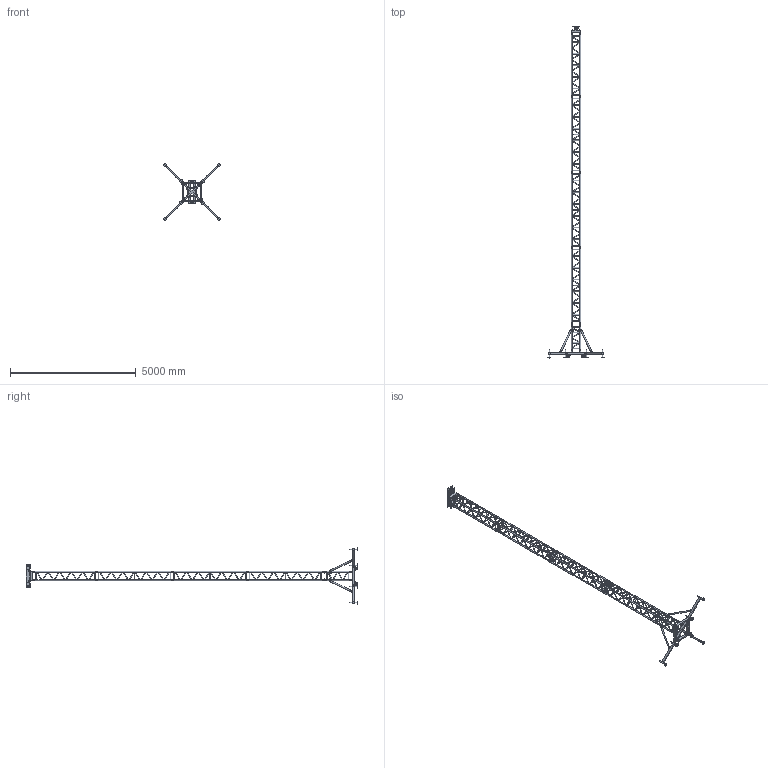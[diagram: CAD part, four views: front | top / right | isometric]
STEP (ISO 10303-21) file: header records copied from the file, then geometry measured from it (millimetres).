
FILE_DESCRIPTION(/* description */ ('ST TOWER HEIGHT=12,5 METER'),/* implementation_level */ '2;1');
FILE_NAME(/* name */ 'C:\Users\bennie\Desktop\ST-TOW-12M.stp',/* time_stamp */ '2019-06-03T10:45:02+02:00',/* author */ ('bboomsema'),/* organization */ (''),/* preprocessor_version */ 'ST-DEVELOPER v17',/* originating_system */ 'Autodesk Inventor 2018',/* authorisation */ '');
FILE_SCHEMA (('AUTOMOTIVE_DESIGN { 1 0 10303 214 3 1 1 }'));
Length unit declared in the file: millimetre
Products named in the file (20): 160132120; 160025971; 160024374; 160025980; 160024681; 160024344; 160024562; 160024561; 160024411; 160024477; 160024412; 160024332; 160024488; 160024410; 160024409; 160027599; 160027601; 160026048; 160025977; 160025998
Assembly tree (45 placements, depth 5):
  160132120
    160025971
    160024374  x4
    160024681  x2
      160024477
        160024412
        160024332
    160025980  x3
    160024562  x5
      160024561
        160024411
        160024477
          160024412
          160024332
        160024488
          160024410
          160024409
    160024344
    160027599  x4
    160027601  x4
    160026048  x4
    160025977
    160025998
Bounding box: 2239.17 x 13201.5 x 2239.17 mm (x, y, z)
Volume: 212020543.2 mm3; surface area: 21041977.4 mm2
Topology: 416 solids, 424 shells, 4141 faces, 9841 edges, 6661 vertices
Faces by surface type: plane 2675, cylinder 1234, cone 140, bspline 72, torus 12, sphere 8
Full cylindrical faces by diameter (mm): 3.1 x28, 5 x6, 6.647 x20, 8 x20, 9.5 x8, 10 x68, 10.3 x16, 10.5 x4, 10.508 x44, 11 x8, 11.5 x8, 11.6 x20, 11.75 x96, 12 x8, 12.445 x4, 12.5 x3, 13 x8, 14 x4, 15.9 x4, 16 x20, 18 x4, 19 x7, 22 x4, 24 x4, 25 x193, 27.8 x48, 29.975 x6, 30 x47, 30.2 x2, 31 x20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
Entity records: 49255 total; most frequent: CARTESIAN_POINT 10951, DIRECTION 7492, ORIENTED_EDGE 6754, EDGE_CURVE 3377, AXIS2_PLACEMENT_3D 2869, VERTEX_POINT 2526, EDGE_LOOP 1783, LINE 1754
